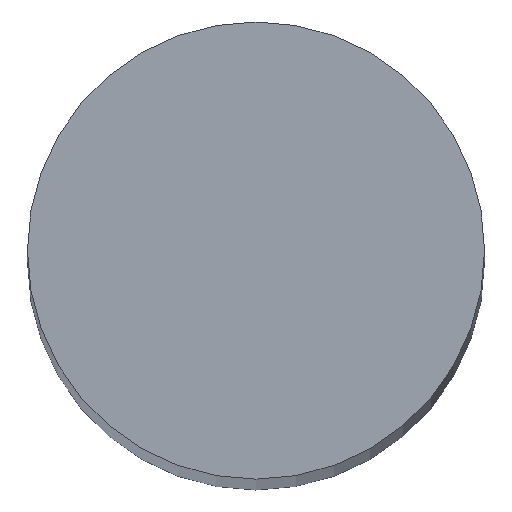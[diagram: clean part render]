
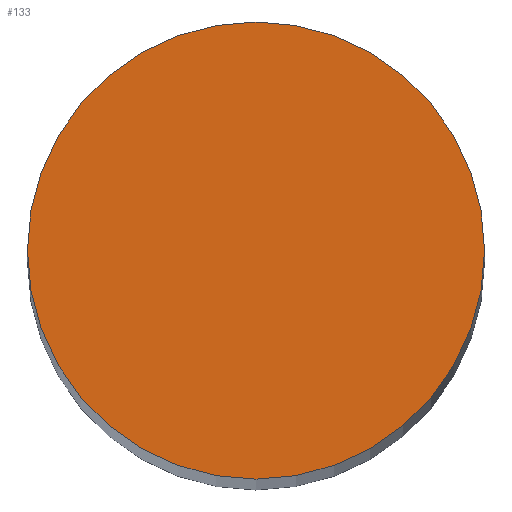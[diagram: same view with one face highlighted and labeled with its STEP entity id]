
A CAD part, top view. The second image highlights one B-rep face of the part: STEP entity #133.
In plain terms, the highlighted planar face has unit normal (0, 0, 1).
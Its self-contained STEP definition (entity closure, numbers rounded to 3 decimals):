
#5 = AXIS2_PLACEMENT_3D ( 'NONE', #67, #40, #65 ) ;
#8 = VERTEX_POINT ( 'NONE', #79 ) ;
#14 = CIRCLE ( 'NONE', #117, 2.5 ) ;
#30 = PLANE ( 'NONE',  #5 ) ;
#40 = DIRECTION ( 'NONE',  ( 0., 0., 1. ) ) ;
#41 = CARTESIAN_POINT ( 'NONE',  ( 0., 0., 68. ) ) ;
#45 = EDGE_CURVE ( 'NONE', #74, #8, #98, .T. ) ;
#52 = FACE_OUTER_BOUND ( 'NONE', #107, .T. ) ;
#63 = AXIS2_PLACEMENT_3D ( 'NONE', #125, #124, #162 ) ;
#65 = DIRECTION ( 'NONE',  ( 1., 0., 0. ) ) ;
#67 = CARTESIAN_POINT ( 'NONE',  ( 0., 0., 68. ) ) ;
#74 = VERTEX_POINT ( 'NONE', #139 ) ;
#79 = CARTESIAN_POINT ( 'NONE',  ( -2.5, 0., 68. ) ) ;
#90 = ORIENTED_EDGE ( 'NONE', *, *, #127, .T. ) ;
#98 = CIRCLE ( 'NONE', #63, 2.5 ) ;
#107 = EDGE_LOOP ( 'NONE', ( #90, #132 ) ) ;
#112 = DIRECTION ( 'NONE',  ( 1., 0., 0. ) ) ;
#117 = AXIS2_PLACEMENT_3D ( 'NONE', #41, #160, #112 ) ;
#124 = DIRECTION ( 'NONE',  ( 0., 0., 1. ) ) ;
#125 = CARTESIAN_POINT ( 'NONE',  ( 0., 0., 68. ) ) ;
#127 = EDGE_CURVE ( 'NONE', #8, #74, #14, .T. ) ;
#132 = ORIENTED_EDGE ( 'NONE', *, *, #45, .T. ) ;
#133 = ADVANCED_FACE ( 'NONE', ( #52 ), #30, .T. ) ;
#139 = CARTESIAN_POINT ( 'NONE',  ( 2.5, 0., 68. ) ) ;
#160 = DIRECTION ( 'NONE',  ( 0., 0., 1. ) ) ;
#162 = DIRECTION ( 'NONE',  ( 1., 0., 0. ) ) ;
